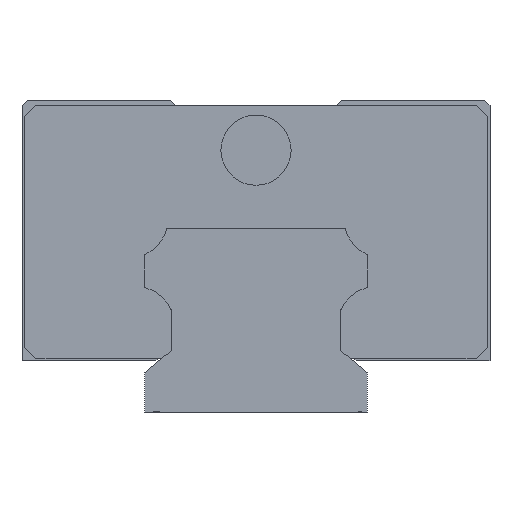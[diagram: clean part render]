
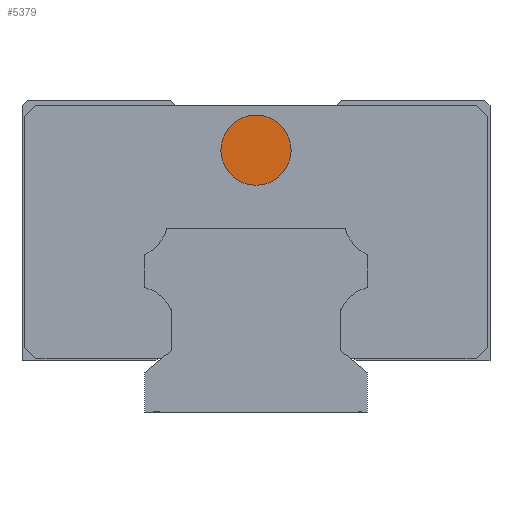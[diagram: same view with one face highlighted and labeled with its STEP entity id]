
A CAD part, left-side view. The second image highlights one B-rep face of the part: STEP entity #5379.
In plain terms, the highlighted planar face has unit normal (-1, 0, 0).
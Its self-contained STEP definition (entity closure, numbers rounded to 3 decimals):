
#303 = CARTESIAN_POINT ( 'NONE',  ( -13.9, 0., 23.5 ) ) ;
#1389 = CARTESIAN_POINT ( 'NONE',  ( -13.9, 0., 20.35 ) ) ;
#1519 = CARTESIAN_POINT ( 'NONE',  ( -13.9, 0., 23.5 ) ) ;
#1758 = AXIS2_PLACEMENT_3D ( 'NONE', #1519, #15694, #14445 ) ;
#2130 = VERTEX_POINT ( 'NONE', #4863 ) ;
#2228 = CARTESIAN_POINT ( 'NONE',  ( -13.9, 0., 23.5 ) ) ;
#3370 = CIRCLE ( 'NONE', #1758, 3.15 ) ;
#3372 = AXIS2_PLACEMENT_3D ( 'NONE', #2228, #7132, #14827 ) ;
#3766 = AXIS2_PLACEMENT_3D ( 'NONE', #303, #7995, #9601 ) ;
#4695 = ORIENTED_EDGE ( 'NONE', *, *, #6932, .F. ) ;
#4863 = CARTESIAN_POINT ( 'NONE',  ( -13.9, 0., 26.65 ) ) ;
#5379 = ADVANCED_FACE ( 'NONE', ( #9430 ), #11958, .T. ) ;
#5638 = EDGE_LOOP ( 'NONE', ( #4695, #13714 ) ) ;
#6932 = EDGE_CURVE ( 'NONE', #2130, #8643, #9575, .T. ) ;
#7132 = DIRECTION ( 'NONE',  ( 1., 0., 0. ) ) ;
#7995 = DIRECTION ( 'NONE',  ( -1., 0., 0. ) ) ;
#8643 = VERTEX_POINT ( 'NONE', #1389 ) ;
#9239 = EDGE_CURVE ( 'NONE', #8643, #2130, #3370, .T. ) ;
#9430 = FACE_OUTER_BOUND ( 'NONE', #5638, .T. ) ;
#9575 = CIRCLE ( 'NONE', #3372, 3.15 ) ;
#9601 = DIRECTION ( 'NONE',  ( 0., 0., 1. ) ) ;
#11958 = PLANE ( 'NONE',  #3766 ) ;
#13714 = ORIENTED_EDGE ( 'NONE', *, *, #9239, .F. ) ;
#14445 = DIRECTION ( 'NONE',  ( 0., 0., -1. ) ) ;
#14827 = DIRECTION ( 'NONE',  ( 0., 0., -1. ) ) ;
#15694 = DIRECTION ( 'NONE',  ( 1., 0., 0. ) ) ;
